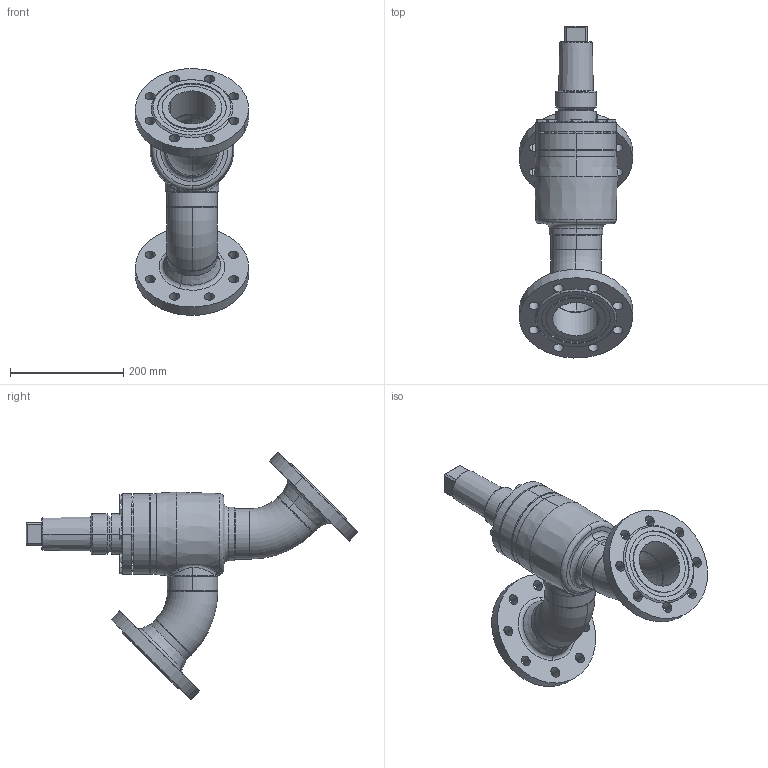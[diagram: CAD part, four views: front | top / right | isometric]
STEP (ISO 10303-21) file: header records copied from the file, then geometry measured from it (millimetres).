
FILE_DESCRIPTION (( 'STEP AP214' ), '1' );
FILE_NAME ('AVR26320D18-DN080_DIN-FL-N_PS40.STEP', '2007-01-08T07:17:37', ( 'Herr Grams' ), ( 'AWP GmbH' ), 'SwSTEP 2.0', 'SolidWorks 2002296', '' );
FILE_SCHEMA (( 'AUTOMOTIVE_DESIGN' ));
Length unit declared in the file: millimetre
Products named in the file (17): AVR26320D18-DN080_DIN-FL-N_PS40; Gehäuse-kpl16320-DN080_DIN_PS40_Standard; Gehäuse-kpl16300-DN080_R1_Standard; Gehäuse-kpl16400-DN080_R1_Standard; Gehäuse16400-DN080_Standard; bead-DN080-1_Standard; Kopfstück16300-DN080_Standard; Rohrbogen 45°_Rohrbogen-DN080-45°; bead-DN080-3_Standard; bead-DN080-2_Standard; Flansch-DIN-Nut_PS40_DIN-Flansch-DN080_PS40-Nut; bead-DN080-7_Standard; bead-DN080-6_Standard; AVR26300E18_Deck+Schr-DN80_Standard; Deckel26300E18-DN80_Standard; Sechskantschraube-DIN933_M10x 30; Kappe16402_DN080-100_Standard
Assembly tree (25 placements, depth 5):
  AVR26320D18-DN080_DIN-FL-N_PS40
    AVR26300E18_Deck+Schr-DN80_Standard
      Sechskantschraube-DIN933_M10x 30  x8
      Deckel26300E18-DN80_Standard
    Kappe16402_DN080-100_Standard
    Gehäuse-kpl16320-DN080_DIN_PS40_Standard
      bead-DN080-6_Standard
      Flansch-DIN-Nut_PS40_DIN-Flansch-DN080_PS40-Nut  x2
      bead-DN080-7_Standard
      Gehäuse-kpl16300-DN080_R1_Standard
        Rohrbogen 45°_Rohrbogen-DN080-45°  x2
        bead-DN080-3_Standard
        bead-DN080-2_Standard
        Gehäuse-kpl16400-DN080_R1_Standard
          Gehäuse16400-DN080_Standard
          bead-DN080-1_Standard
          Kopfstück16300-DN080_Standard
Bounding box: 199.81 x 585.85 x 435.48 mm (x, y, z)
Volume: 3272225.3 mm3; surface area: 652026.1 mm2
Topology: 21 solids, 21 shells, 469 faces, 1066 edges, 655 vertices
Faces by surface type: cylinder 148, cone 141, plane 128, bspline 28, torus 24
Entity records: 20934 total; most frequent: CARTESIAN_POINT 14230, DIRECTION 1251, ORIENTED_EDGE 1152, EDGE_CURVE 576, AXIS2_PLACEMENT_3D 551, VERTEX_POINT 363, EDGE_LOOP 315, CIRCLE 297
